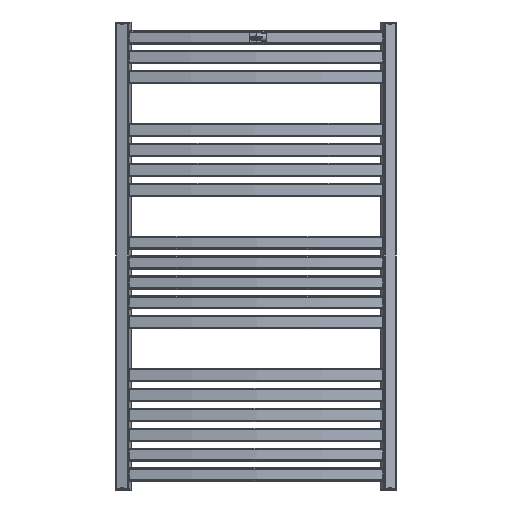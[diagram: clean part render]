
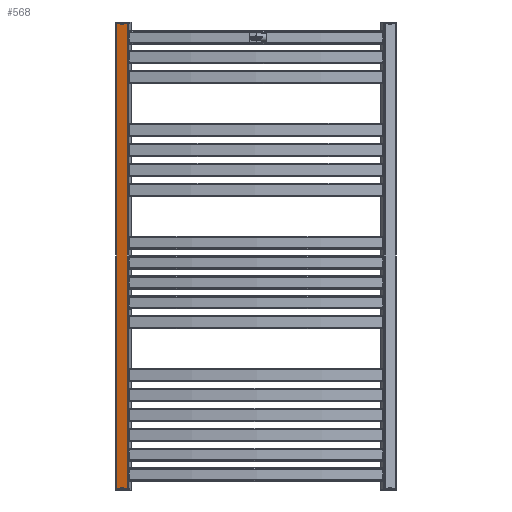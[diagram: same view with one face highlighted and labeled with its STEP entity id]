
A CAD part, front view. The second image highlights one B-rep face of the part: STEP entity #568.
In plain terms, the highlighted planar face has unit normal (-0.243, -0.97, 0) as drawn and (1, 0, 0) by its records, which use the part's own axes.
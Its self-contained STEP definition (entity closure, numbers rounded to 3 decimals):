
#568 = ADVANCED_FACE( '', ( #1237 ), #1238, .T. );
#1237 = FACE_OUTER_BOUND( '', #1987, .T. );
#1238 = PLANE( '', #1988 );
#1987 = EDGE_LOOP( '', ( #3782, #3783, #3784, #3785 ) );
#1988 = AXIS2_PLACEMENT_3D( '', #3786, #3787, #3788 );
#3782 = ORIENTED_EDGE( '', *, *, #4323, .T. );
#3783 = ORIENTED_EDGE( '', *, *, #4742, .T. );
#3784 = ORIENTED_EDGE( '', *, *, #4902, .F. );
#3785 = ORIENTED_EDGE( '', *, *, #4918, .T. );
#3786 = CARTESIAN_POINT( '', ( 15., 1056., -15. ) );
#3787 = DIRECTION( '', ( 1., 0., 0. ) );
#3788 = DIRECTION( '', ( 0., 0., -1. ) );
#4323 = EDGE_CURVE( '', #5170, #5168, #5171, .T. );
#4742 = EDGE_CURVE( '', #5168, #5884, #5886, .T. );
#4902 = EDGE_CURVE( '', #6077, #5884, #6078, .T. );
#4918 = EDGE_CURVE( '', #6077, #5170, #6094, .F. );
#5168 = VERTEX_POINT( '', #6390 );
#5170 = VERTEX_POINT( '', #6392 );
#5171 = LINE( '', #6393, #6394 );
#5884 = VERTEX_POINT( '', #7332 );
#5886 = LINE( '', #7334, #7335 );
#6077 = VERTEX_POINT( '', #7594 );
#6078 = LINE( '', #7595, #7596 );
#6094 = LINE( '', #7618, #7619 );
#6390 = CARTESIAN_POINT( '', ( 15., 1056., 12. ) );
#6392 = CARTESIAN_POINT( '', ( 15., 1056., -12. ) );
#6393 = CARTESIAN_POINT( '', ( 15., 1056., -15. ) );
#6394 = VECTOR( '', #7915, 1000. );
#7332 = CARTESIAN_POINT( '', ( 15., 0., 12. ) );
#7334 = CARTESIAN_POINT( '', ( 15., 1056., 12. ) );
#7335 = VECTOR( '', #8588, 1000. );
#7594 = CARTESIAN_POINT( '', ( 15., 0., -12. ) );
#7595 = CARTESIAN_POINT( '', ( 15., 0., -15. ) );
#7596 = VECTOR( '', #8741, 1000. );
#7618 = CARTESIAN_POINT( '', ( 15., 1056., -12. ) );
#7619 = VECTOR( '', #8754, 1000. );
#7915 = DIRECTION( '', ( 0., 0., 1. ) );
#8588 = DIRECTION( '', ( 0., -1., 0. ) );
#8741 = DIRECTION( '', ( 0., 0., 1. ) );
#8754 = DIRECTION( '', ( 0., -1., 0. ) );
